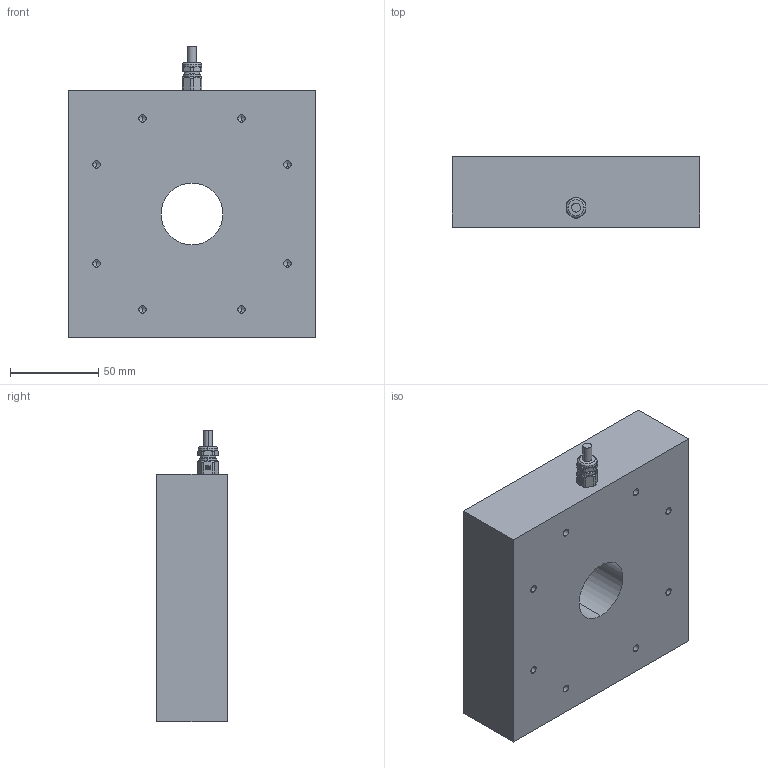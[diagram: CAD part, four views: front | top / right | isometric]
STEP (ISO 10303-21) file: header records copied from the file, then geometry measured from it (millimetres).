
FILE_DESCRIPTION (( 'STEP AP214' ), '1' );
FILE_NAME ('L1005.STEP', '2021-03-15T13:31:20', ( '' ), ( '' ), 'SwSTEP 2.0', 'SolidWorks 2021', '' );
FILE_SCHEMA (( 'AUTOMOTIVE_DESIGN' ));
Length unit declared in the file: millimetre
Products named in the file (4): SKINDICHT_MINI_M_8x1; Kabel ø5; L1005; L1G001005-Gehäuse-einfach
Assembly tree (3 placements, depth 2):
  L1005
    L1G001005-Gehäuse-einfach
    SKINDICHT_MINI_M_8x1
    Kabel ø5
Bounding box: 140 x 40 x 164.83 mm (x, y, z)
Volume: 730968.4 mm3; surface area: 67173.1 mm2
Topology: 3 solids, 4 shells, 154 faces, 377 edges, 228 vertices
Faces by surface type: cylinder 65, plane 47, cone 34, torus 8
Entity records: 4656 total; most frequent: CARTESIAN_POINT 857, DIRECTION 817, ORIENTED_EDGE 722, EDGE_CURVE 361, AXIS2_PLACEMENT_3D 320, VERTEX_POINT 228, LINE 177, VECTOR 177
